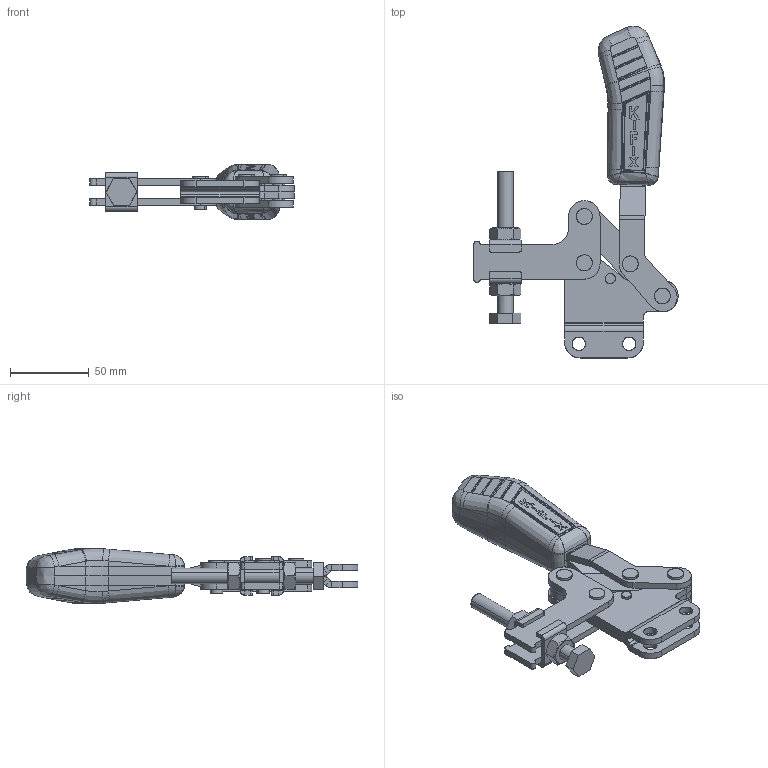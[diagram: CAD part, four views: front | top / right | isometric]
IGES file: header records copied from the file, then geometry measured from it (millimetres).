
Start section: SolidWorks IGES file using analytic representation for surfaces
Global section: file name: G:\Grampos\KF-631\KF-631 R\KF-631 R.IGS; native system: SolidWorks 2018; preprocessor: SolidWorks 2018; author: Ricardo.Sandi; date: 181129.160226; units: millimetre
Bounding box: 129.5 x 210.43 x 35.04 mm (x, y, z)
Surface area: 74762.5 mm2 (no closed solid volume)
Topology: 0 solids, 0 shells, 729 faces, 8161 edges, 8139 vertices
Faces by surface type: bspline 455, revolution 274
